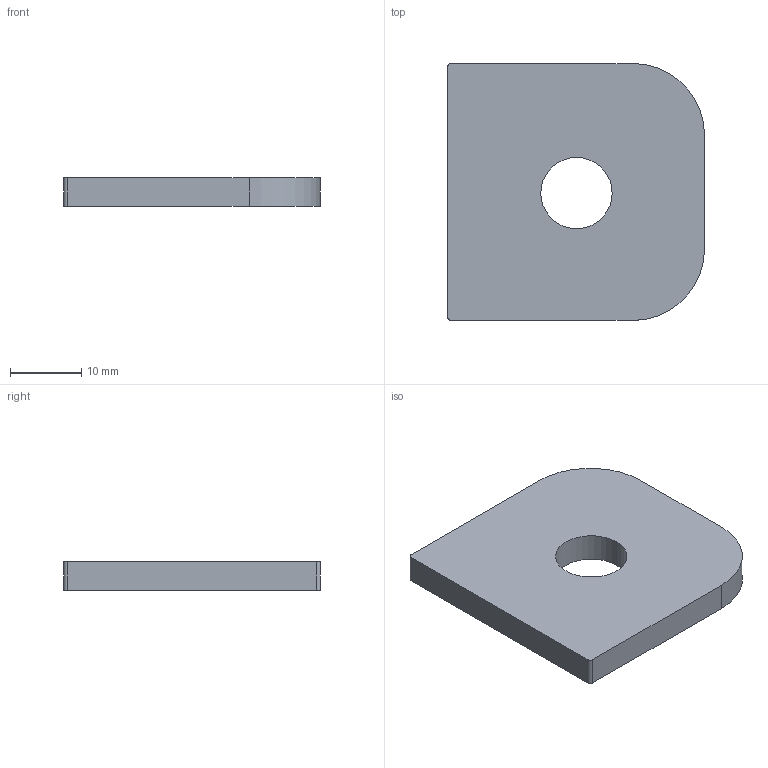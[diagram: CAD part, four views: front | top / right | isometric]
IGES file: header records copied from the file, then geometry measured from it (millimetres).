
Start section: START RECORD GO HERE.
Global section: file name: 20M_MS_Harnais.igs; native system: IBM CATIA IGES - CATIA Version 5 Release 19 ; preprocessor: CATIA Version 5 Release 19 ; author: thilv; organization: PREDATOR; date: 20191217.162844; units: millimetre
Bounding box: 36 x 36 x 4 mm (x, y, z)
Surface area: 3014.5 mm2 (no closed solid volume)
Topology: 0 solids, 0 shells, 12 faces, 60 edges, 60 vertices
Faces by surface type: revolution 6, plane 6
